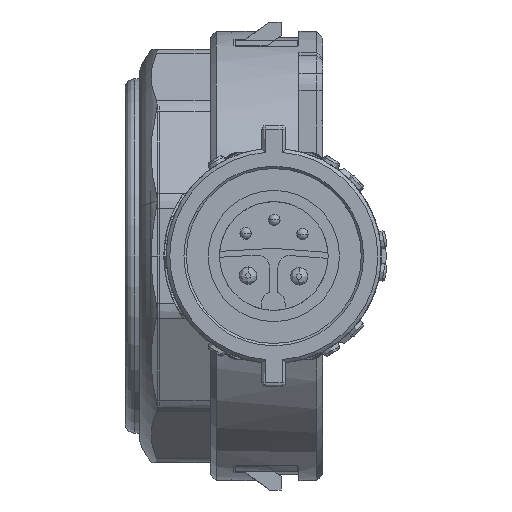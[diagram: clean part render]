
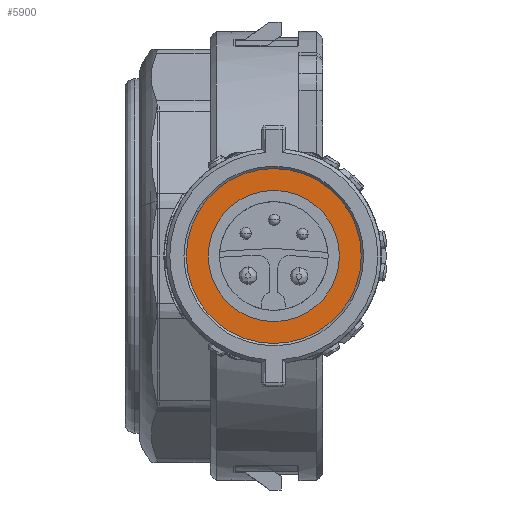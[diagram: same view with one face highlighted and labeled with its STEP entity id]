
A CAD part, left-side view. The second image highlights one B-rep face of the part: STEP entity #5900.
In plain terms, the highlighted planar face has unit normal (-1, 0, 0).
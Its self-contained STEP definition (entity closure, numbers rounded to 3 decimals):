
#4312 = AXIS2_PLACEMENT_3D ( 'NONE', #33972, #45645, #67683 ) ;
#4333 = CIRCLE ( 'NONE', #61083, 7.4 ) ;
#5900 = ADVANCED_FACE ( 'NONE', ( #31388, #30623 ), #53671, .T. ) ;
#6096 = ORIENTED_EDGE ( 'NONE', *, *, #45204, .F. ) ;
#8879 = VERTEX_POINT ( 'NONE', #60695 ) ;
#17343 = CARTESIAN_POINT ( 'NONE',  ( 6.89, 0., 0. ) ) ;
#23021 = DIRECTION ( 'NONE',  ( 0., -1., 0. ) ) ;
#24742 = EDGE_CURVE ( 'NONE', #8879, #8879, #61728, .T. ) ;
#30623 = FACE_OUTER_BOUND ( 'NONE', #45138, .T. ) ;
#31388 = FACE_BOUND ( 'NONE', #69143, .T. ) ;
#33434 = VERTEX_POINT ( 'NONE', #56462 ) ;
#33972 = CARTESIAN_POINT ( 'NONE',  ( 6.89, 0., 0. ) ) ;
#44768 = AXIS2_PLACEMENT_3D ( 'NONE', #17343, #56249, #23021 ) ;
#45138 = EDGE_LOOP ( 'NONE', ( #6096 ) ) ;
#45204 = EDGE_CURVE ( 'NONE', #33434, #33434, #4333, .T. ) ;
#45645 = DIRECTION ( 'NONE',  ( -1., 0., 0. ) ) ;
#53671 = PLANE ( 'NONE',  #4312 ) ;
#56249 = DIRECTION ( 'NONE',  ( -1., 0., 0. ) ) ;
#56462 = CARTESIAN_POINT ( 'NONE',  ( 6.89, -7.4, 0. ) ) ;
#60695 = CARTESIAN_POINT ( 'NONE',  ( 6.89, -5.55, 0. ) ) ;
#61083 = AXIS2_PLACEMENT_3D ( 'NONE', #67531, #72905, #67151 ) ;
#61660 = ORIENTED_EDGE ( 'NONE', *, *, #24742, .F. ) ;
#61728 = CIRCLE ( 'NONE', #44768, 5.55 ) ;
#67151 = DIRECTION ( 'NONE',  ( 0., -1., 0. ) ) ;
#67531 = CARTESIAN_POINT ( 'NONE',  ( 6.89, 0., 0. ) ) ;
#67683 = DIRECTION ( 'NONE',  ( 0., -1., 0. ) ) ;
#69143 = EDGE_LOOP ( 'NONE', ( #61660 ) ) ;
#72905 = DIRECTION ( 'NONE',  ( 1., 0., 0. ) ) ;
